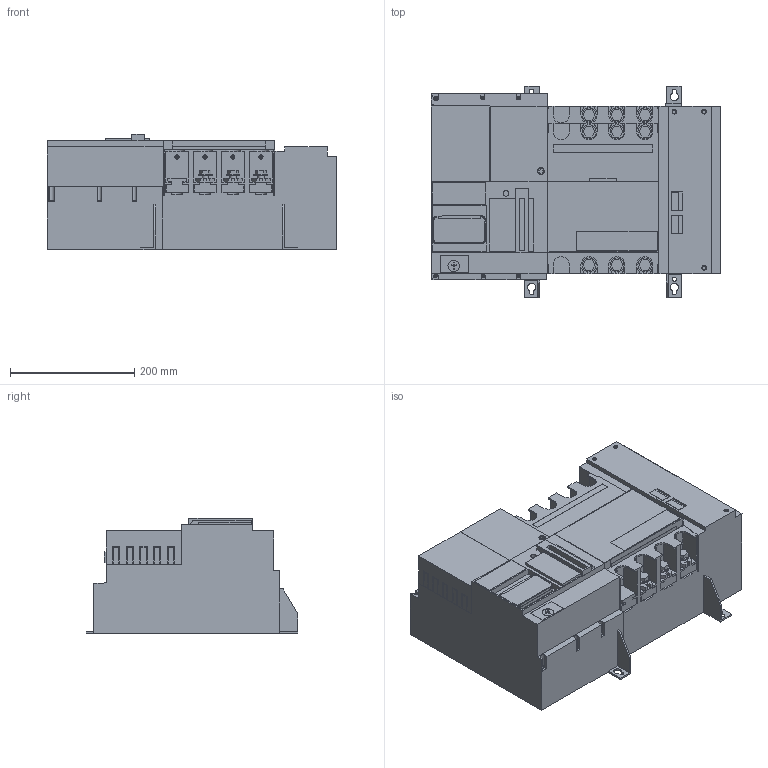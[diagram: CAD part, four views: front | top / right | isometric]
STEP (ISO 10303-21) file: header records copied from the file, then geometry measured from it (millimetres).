
FILE_DESCRIPTION((''),'2;1');
FILE_NAME('1669828962063_ASM','2022-11-30T22:53:07',('SESA654545'),('Schneider-Electric'),'CREO PARAMETRIC BY PTC INC, 2021284','CREO PARAMETRIC BY PTC INC, 2021284','');
FILE_SCHEMA(('AP242_MANAGED_MODEL_BASED_3D_ENGINEERING_MIM_LF { 1 0 10303 442 1 1 4 }'));
Products named in the file (4): EMPTYNODE_1669828962687_ASM; R4-3P-ROTARY; R4-3P-ROTARY-V03-3D_ASM; 1669828962063_ASM
Assembly tree (3 placements, depth 3):
  1669828962063_ASM
    EMPTYNODE_1669828962687_ASM
    R4-3P-ROTARY-V03-3D_ASM
      R4-3P-ROTARY
Bounding box: 467.1 x 341.01 x 185.8 mm (x, y, z)
Volume: 19676218.6 mm3; surface area: 852479.1 mm2
Topology: 2 solids, 2 shells, 1777 faces, 4796 edges, 3172 vertices
Faces by surface type: plane 1399, cylinder 322, extrusion 56
Entity records: 79721 total; most frequent: CARTESIAN_POINT 11438, ORIENTED_EDGE 9592, DIRECTION 8832, PRESENTATION_STYLE_ASSIGNMENT 5560, STYLED_ITEM 4848, CURVE_STYLE 4846, EDGE_CURVE 4796, VECTOR 4026
